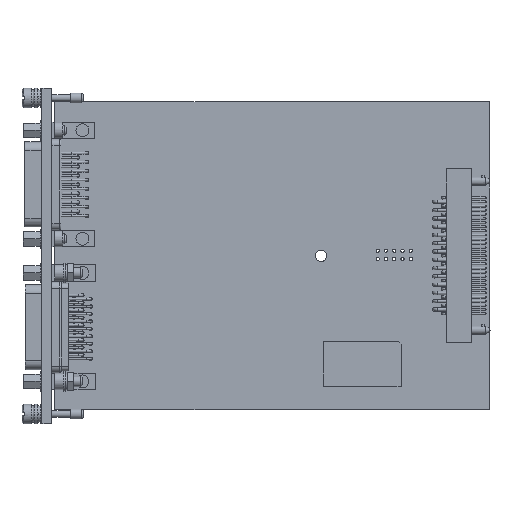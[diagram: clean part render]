
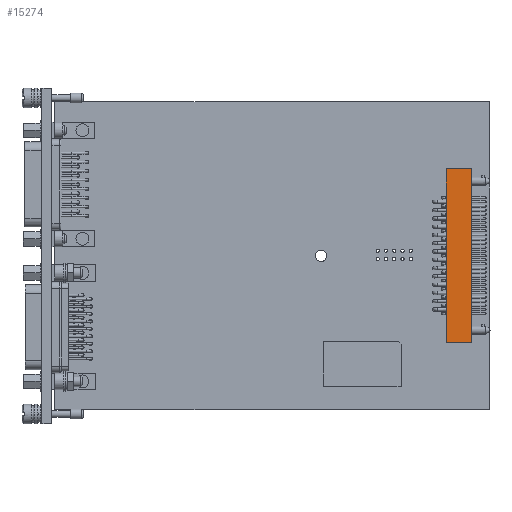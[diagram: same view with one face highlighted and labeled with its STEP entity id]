
A CAD part, top view. The second image highlights one B-rep face of the part: STEP entity #15274.
In plain terms, the highlighted planar face has unit normal (0, 0, 1).
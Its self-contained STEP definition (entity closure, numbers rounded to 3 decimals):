
#15274=ADVANCED_FACE('',(#32154),#32156,.F.);
#32154=FACE_BOUND('',#32155,.T.);
#32155=EDGE_LOOP('',(#43755,#43756,#43757,#43758,#43759,#43760,#43761,#43762));
#32156=PLANE('',#32157);
#32157=AXIS2_PLACEMENT_3D('',#32158,#32159,#32160);
#32158=CARTESIAN_POINT('',(120.1,20.5,6.363));
#32159=DIRECTION('',(0.,0.,-1.));
#32160=DIRECTION('',(-1.,0.,0.));
#43755=ORIENTED_EDGE('',*,*,#49155,.T.);
#43756=ORIENTED_EDGE('',*,*,#49198,.T.);
#43757=ORIENTED_EDGE('',*,*,#49196,.T.);
#43758=ORIENTED_EDGE('',*,*,#49194,.T.);
#43759=ORIENTED_EDGE('',*,*,#49192,.T.);
#43760=ORIENTED_EDGE('',*,*,#49161,.T.);
#43761=ORIENTED_EDGE('',*,*,#49159,.T.);
#43762=ORIENTED_EDGE('',*,*,#49157,.T.);
#49155=EDGE_CURVE('',#56910,#56908,#56911,.T.);
#49157=EDGE_CURVE('',#56913,#56910,#56914,.T.);
#49159=EDGE_CURVE('',#56916,#56913,#56917,.T.);
#49161=EDGE_CURVE('',#56919,#56916,#56920,.T.);
#49192=EDGE_CURVE('',#56980,#56919,#56981,.T.);
#49194=EDGE_CURVE('',#56983,#56980,#56984,.T.);
#49196=EDGE_CURVE('',#56986,#56983,#56987,.T.);
#49198=EDGE_CURVE('',#56908,#56986,#56989,.T.);
#56908=VERTEX_POINT('',#78335);
#56910=VERTEX_POINT('',#78339);
#56911=LINE('',#78340,#78341);
#56913=VERTEX_POINT('',#78346);
#56914=LINE('',#78347,#78348);
#56916=VERTEX_POINT('',#78353);
#56917=LINE('',#78354,#78355);
#56919=VERTEX_POINT('',#78360);
#56920=LINE('',#78361,#78362);
#56980=VERTEX_POINT('',#78512);
#56981=LINE('',#78513,#78514);
#56983=VERTEX_POINT('',#78519);
#56984=LINE('',#78520,#78521);
#56986=VERTEX_POINT('',#78526);
#56987=LINE('',#78527,#78528);
#56989=LINE('',#78533,#78534);
#78335=CARTESIAN_POINT('',(128.,20.5,6.363));
#78339=CARTESIAN_POINT('',(120.1,20.5,6.363));
#78340=CARTESIAN_POINT('',(120.1,20.5,6.363));
#78341=VECTOR('',#78342,1.);
#78342=DIRECTION('',(1.,0.,0.));
#78346=CARTESIAN_POINT('',(120.1,27.5,6.363));
#78347=CARTESIAN_POINT('',(120.1,27.5,6.363));
#78348=VECTOR('',#78349,1.);
#78349=DIRECTION('',(0.,-1.,0.));
#78353=CARTESIAN_POINT('',(120.4,27.5,6.363));
#78354=CARTESIAN_POINT('',(120.4,27.5,6.363));
#78355=VECTOR('',#78356,1.);
#78356=DIRECTION('',(-1.,0.,0.));
#78360=CARTESIAN_POINT('',(120.4,67.,6.363));
#78361=CARTESIAN_POINT('',(120.4,67.,6.363));
#78362=VECTOR('',#78363,1.);
#78363=DIRECTION('',(0.,-1.,0.));
#78512=CARTESIAN_POINT('',(120.1,67.,6.363));
#78513=CARTESIAN_POINT('',(120.1,67.,6.363));
#78514=VECTOR('',#78515,1.);
#78515=DIRECTION('',(1.,0.,0.));
#78519=CARTESIAN_POINT('',(120.1,74.,6.363));
#78520=CARTESIAN_POINT('',(120.1,74.,6.363));
#78521=VECTOR('',#78522,1.);
#78522=DIRECTION('',(0.,-1.,0.));
#78526=CARTESIAN_POINT('',(128.,74.,6.363));
#78527=CARTESIAN_POINT('',(128.,74.,6.363));
#78528=VECTOR('',#78529,1.);
#78529=DIRECTION('',(-1.,0.,0.));
#78533=CARTESIAN_POINT('',(128.,20.5,6.363));
#78534=VECTOR('',#78535,1.);
#78535=DIRECTION('',(0.,1.,0.));
